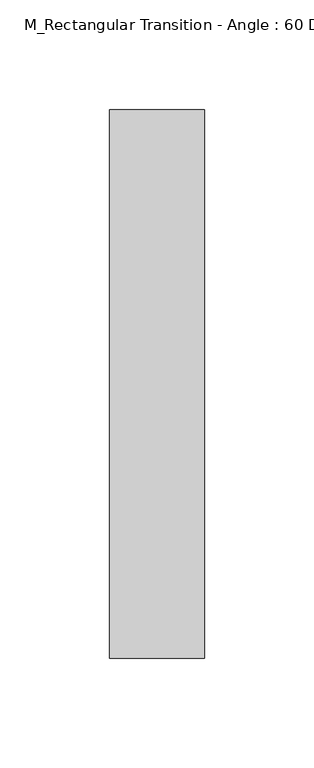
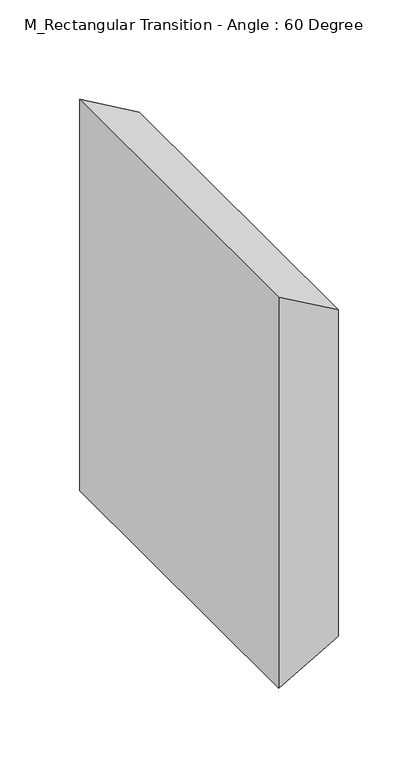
"""IFC4 building model written with IfcOpenShell, lengths in millimetres: duct fitting geometry, M_Rectangular Transition - Angle : 60 Degree."""

from ifc_helpers import new_model, si_unit, frame, origin, place, context, project, spatial, polyline, outline, extrude, source, transform, mapped, element, save


def m_rectangular_transition_angle_60_degree_feee1646(model_context):
    return source(origin(), model_context, "Body", "SweptSolid", [
        extrude(outline(polyline([(150.0, 0.0), (-150.0, 0.0), (-125.0, 43.3012702), (125.0, 43.3012702), (150.0, 0.0)])), frame((0.0, -125.0, 0.0), z_axis=(0.0, 1.0, 0.0), x_axis=(0.0, 0.0, 1.0)), (0.0, 0.0, 1.0), 250.0),
    ])


if __name__ == "__main__":
    model = new_model("IFC4")
    model_context = context("Model", 3, world=origin())
    ifc_project = project(units=[si_unit("LENGTHUNIT", "METRE", prefix="MILLI")], contexts=[model_context])
    site = spatial("IfcSite", under=ifc_project)
    building = spatial("IfcBuilding", under=site)
    placement = place(None, origin())
    m_rectangular_transition_angle_60_degree_shape = m_rectangular_transition_angle_60_degree_feee1646(model_context)
    element("IfcDuctFitting", 1, ObjectType="M_Rectangular Transition - Angle : 60 Degree", at=placement, inside=building, context=model_context, shape_type="MappedRepresentation", body=[
        mapped(m_rectangular_transition_angle_60_degree_shape, transform((0.0, 0.0, 0.0), x_axis=(1.0, 0.0, 0.0), y_axis=(0.0, 1.0, 0.0), z_axis=(0.0, 0.0, 1.0))),
    ])
    save(model, "model.ifc")
